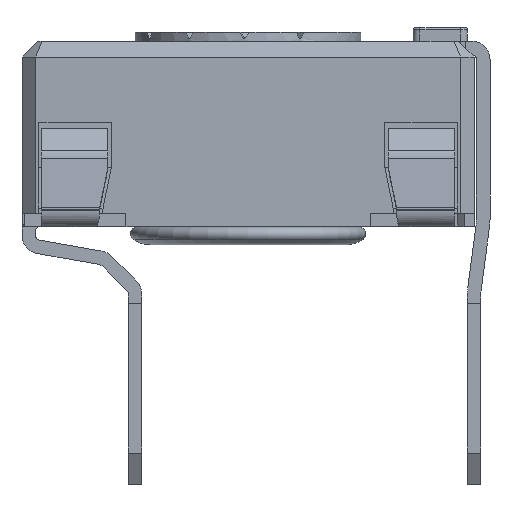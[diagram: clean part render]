
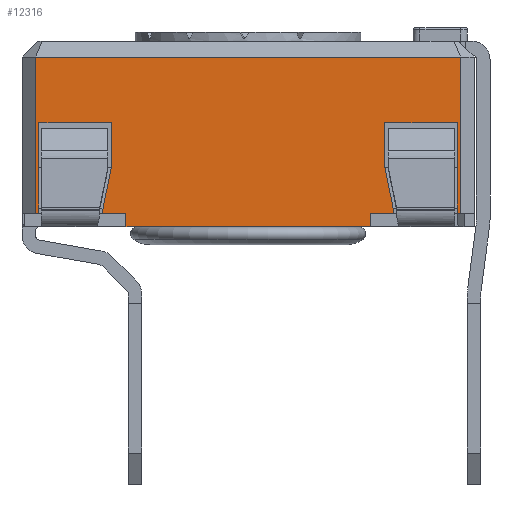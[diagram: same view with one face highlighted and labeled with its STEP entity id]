
A CAD part, left-side view. The second image highlights one B-rep face of the part: STEP entity #12316.
In plain terms, the highlighted planar face has unit normal (-1, 0, 0).
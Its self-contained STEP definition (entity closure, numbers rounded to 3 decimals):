
#998=FACE_OUTER_BOUND('',#1642,.T.);
#1642=EDGE_LOOP('',(#10365,#10366,#10367,#10368,#10369,#10370,#10371,#10372,
#10373,#10374,#10375,#10376,#10377,#10378,#10379,#10380,#10381,#10382));
#2511=LINE('',#18505,#3951);
#2542=LINE('',#18567,#3982);
#2548=LINE('',#18579,#3988);
#2569=LINE('',#18621,#4009);
#2737=LINE('',#19147,#4177);
#2780=LINE('',#19229,#4220);
#2783=LINE('',#19235,#4223);
#2928=LINE('',#19607,#4368);
#2930=LINE('',#19611,#4370);
#2934=LINE('',#19619,#4374);
#2937=LINE('',#19625,#4377);
#2944=LINE('',#19639,#4384);
#2946=LINE('',#19643,#4386);
#2952=LINE('',#19654,#4392);
#2953=LINE('',#19656,#4393);
#2954=LINE('',#19659,#4394);
#2955=LINE('',#19661,#4395);
#2956=LINE('',#19662,#4396);
#3951=VECTOR('',#15057,10.);
#3982=VECTOR('',#15092,10.);
#3988=VECTOR('',#15098,10.);
#4009=VECTOR('',#15121,10.);
#4177=VECTOR('',#15595,10.);
#4220=VECTOR('',#15670,10.);
#4223=VECTOR('',#15679,10.);
#4368=VECTOR('',#16040,10.);
#4370=VECTOR('',#16044,10.);
#4374=VECTOR('',#16050,10.);
#4377=VECTOR('',#16055,10.);
#4384=VECTOR('',#16070,10.);
#4386=VECTOR('',#16074,10.);
#4392=VECTOR('',#16086,10.);
#4393=VECTOR('',#16089,10.);
#4394=VECTOR('',#16092,10.);
#4395=VECTOR('',#16093,10.);
#4396=VECTOR('',#16094,10.);
#5279=VERTEX_POINT('',#18502);
#5280=VERTEX_POINT('',#18504);
#5308=VERTEX_POINT('',#18564);
#5309=VERTEX_POINT('',#18566);
#5314=VERTEX_POINT('',#18576);
#5315=VERTEX_POINT('',#18578);
#5334=VERTEX_POINT('',#18618);
#5335=VERTEX_POINT('',#18620);
#5485=VERTEX_POINT('',#19144);
#5486=VERTEX_POINT('',#19146);
#5604=VERTEX_POINT('',#19605);
#5605=VERTEX_POINT('',#19610);
#5608=VERTEX_POINT('',#19617);
#5610=VERTEX_POINT('',#19624);
#5613=VERTEX_POINT('',#19638);
#5614=VERTEX_POINT('',#19642);
#5617=VERTEX_POINT('',#19658);
#5618=VERTEX_POINT('',#19660);
#6706=EDGE_CURVE('',#5280,#5279,#2511,.T.);
#6737=EDGE_CURVE('',#5309,#5308,#2542,.T.);
#6743=EDGE_CURVE('',#5315,#5314,#2548,.T.);
#6764=EDGE_CURVE('',#5335,#5334,#2569,.T.);
#7009=EDGE_CURVE('',#5486,#5485,#2737,.T.);
#7052=EDGE_CURVE('',#5309,#5485,#2780,.T.);
#7055=EDGE_CURVE('',#5314,#5486,#2783,.T.);
#7236=EDGE_CURVE('',#5308,#5604,#2928,.T.);
#7238=EDGE_CURVE('',#5605,#5315,#2930,.T.);
#7242=EDGE_CURVE('',#5604,#5608,#2934,.T.);
#7245=EDGE_CURVE('',#5610,#5605,#2937,.T.);
#7252=EDGE_CURVE('',#5613,#5610,#2944,.T.);
#7254=EDGE_CURVE('',#5614,#5335,#2946,.T.);
#7260=EDGE_CURVE('',#5608,#5614,#2952,.T.);
#7261=EDGE_CURVE('',#5279,#5613,#2953,.T.);
#7262=EDGE_CURVE('',#5617,#5334,#2954,.T.);
#7263=EDGE_CURVE('',#5618,#5617,#2955,.T.);
#7264=EDGE_CURVE('',#5618,#5280,#2956,.T.);
#10365=ORIENTED_EDGE('',*,*,#7261,.T.);
#10366=ORIENTED_EDGE('',*,*,#7252,.T.);
#10367=ORIENTED_EDGE('',*,*,#7245,.T.);
#10368=ORIENTED_EDGE('',*,*,#7238,.T.);
#10369=ORIENTED_EDGE('',*,*,#6743,.T.);
#10370=ORIENTED_EDGE('',*,*,#7055,.T.);
#10371=ORIENTED_EDGE('',*,*,#7009,.T.);
#10372=ORIENTED_EDGE('',*,*,#7052,.F.);
#10373=ORIENTED_EDGE('',*,*,#6737,.T.);
#10374=ORIENTED_EDGE('',*,*,#7236,.T.);
#10375=ORIENTED_EDGE('',*,*,#7242,.T.);
#10376=ORIENTED_EDGE('',*,*,#7260,.T.);
#10377=ORIENTED_EDGE('',*,*,#7254,.T.);
#10378=ORIENTED_EDGE('',*,*,#6764,.T.);
#10379=ORIENTED_EDGE('',*,*,#7262,.F.);
#10380=ORIENTED_EDGE('',*,*,#7263,.F.);
#10381=ORIENTED_EDGE('',*,*,#7264,.T.);
#10382=ORIENTED_EDGE('',*,*,#6706,.T.);
#11479=PLANE('',#13226);
#12316=ADVANCED_FACE('',(#998),#11479,.T.);
#13226=AXIS2_PLACEMENT_3D('',#19657,#16090,#16091);
#15057=DIRECTION('',(0.,-1.,0.));
#15092=DIRECTION('',(0.,-1.,0.));
#15098=DIRECTION('',(0.,-1.,0.));
#15121=DIRECTION('',(0.,-1.,0.));
#15595=DIRECTION('',(0.,-1.,0.));
#15670=DIRECTION('',(0.,0.,-1.));
#15679=DIRECTION('',(0.,0.,-1.));
#16040=DIRECTION('',(0.,0.199,0.98));
#16044=DIRECTION('',(0.,0.199,-0.98));
#16050=DIRECTION('',(0.,0.,1.));
#16055=DIRECTION('',(0.,0.,-1.));
#16070=DIRECTION('',(0.,-1.,0.));
#16074=DIRECTION('',(0.,0.,-1.));
#16086=DIRECTION('',(0.,-1.,0.));
#16089=DIRECTION('',(0.,0.,1.));
#16090=DIRECTION('center_axis',(-1.,0.,0.));
#16091=DIRECTION('ref_axis',(0.,0.,1.));
#16092=DIRECTION('',(0.,0.,-1.));
#16093=DIRECTION('',(0.,-1.,0.));
#16094=DIRECTION('',(0.,0.,-1.));
#18502=CARTESIAN_POINT('',(-31.348,-8.365,-3.8));
#18504=CARTESIAN_POINT('',(-31.348,-8.29,-3.8));
#18505=CARTESIAN_POINT('',(-31.348,-17.69,-3.8));
#18564=CARTESIAN_POINT('',(-31.348,-16.219,-3.8));
#18566=CARTESIAN_POINT('',(-31.348,-15.69,-3.8));
#18567=CARTESIAN_POINT('',(-31.348,-9.762,-3.8));
#18576=CARTESIAN_POINT('',(-31.348,-10.29,-3.8));
#18578=CARTESIAN_POINT('',(-31.348,-9.762,-3.8));
#18579=CARTESIAN_POINT('',(-31.348,-9.762,-3.8));
#18618=CARTESIAN_POINT('',(-31.348,-17.69,-3.8));
#18620=CARTESIAN_POINT('',(-31.348,-17.615,-3.8));
#18621=CARTESIAN_POINT('',(-31.348,-17.69,-3.8));
#19144=CARTESIAN_POINT('',(-31.348,-15.69,-4.1));
#19146=CARTESIAN_POINT('',(-31.348,-10.29,-4.1));
#19147=CARTESIAN_POINT('',(-31.348,-16.219,-4.1));
#19229=CARTESIAN_POINT('',(-31.348,-15.69,-3.8));
#19235=CARTESIAN_POINT('',(-31.348,-10.29,-3.8));
#19605=CARTESIAN_POINT('',(-31.348,-16.015,-2.8));
#19607=CARTESIAN_POINT('',(-31.348,-16.219,-3.8));
#19610=CARTESIAN_POINT('',(-31.348,-9.965,-2.8));
#19611=CARTESIAN_POINT('',(-31.348,-9.965,-2.8));
#19617=CARTESIAN_POINT('',(-31.348,-16.015,-1.8));
#19619=CARTESIAN_POINT('',(-31.348,-16.015,-2.8));
#19624=CARTESIAN_POINT('',(-31.348,-9.965,-1.8));
#19625=CARTESIAN_POINT('',(-31.348,-9.965,-1.8));
#19638=CARTESIAN_POINT('',(-31.348,-8.365,-1.8));
#19639=CARTESIAN_POINT('',(-31.348,-10.64,-1.8));
#19642=CARTESIAN_POINT('',(-31.348,-17.615,-1.8));
#19643=CARTESIAN_POINT('',(-31.348,-17.615,-1.368));
#19654=CARTESIAN_POINT('',(-31.348,-10.64,-1.8));
#19656=CARTESIAN_POINT('',(-31.348,-8.365,-1.368));
#19657=CARTESIAN_POINT('Origin',(-31.348,-8.29,0.));
#19658=CARTESIAN_POINT('',(-31.348,-17.69,-0.35));
#19659=CARTESIAN_POINT('',(-31.348,-17.69,0.));
#19660=CARTESIAN_POINT('',(-31.348,-8.29,-0.35));
#19661=CARTESIAN_POINT('',(-31.348,-10.64,-0.35));
#19662=CARTESIAN_POINT('',(-31.348,-8.29,0.));
